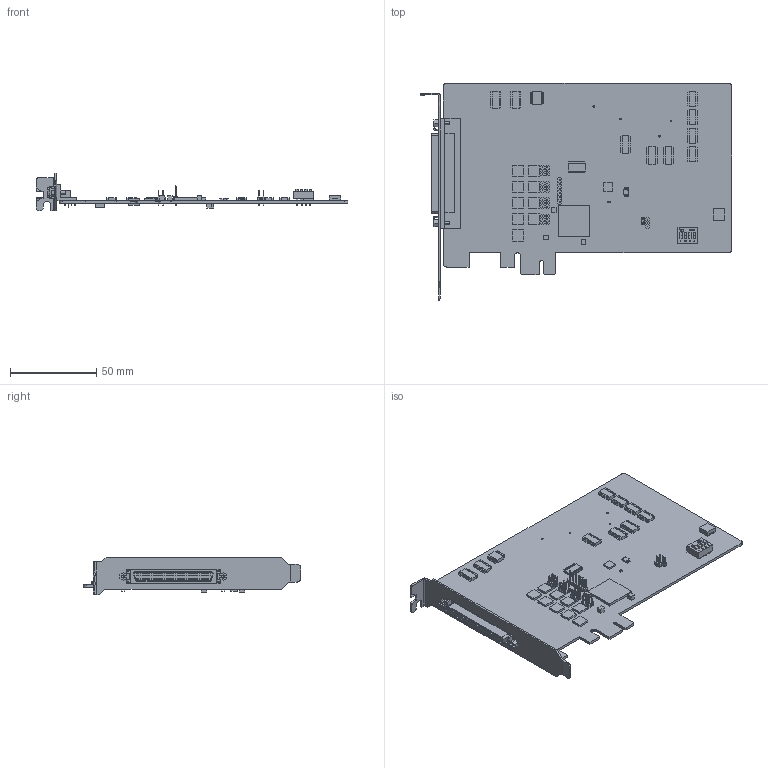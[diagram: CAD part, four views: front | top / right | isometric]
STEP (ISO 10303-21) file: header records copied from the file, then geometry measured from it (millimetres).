
FILE_DESCRIPTION (( 'STEP AP214' ), '1' );
FILE_NAME ('assy_PCIE-1816-AE.STEP', '2021-04-06T06:13:11', ( '' ), ( '' ), 'SwSTEP 2.0', 'SolidWorks 2020', '' );
FILE_SCHEMA (( 'AUTOMOTIVE_DESIGN' ));
Length unit declared in the file: millimetre
Products named in the file (1): assy_PCIE-1816-AE
Bounding box: 181.07 x 126.22 x 21.6 mm (x, y, z)
Volume: 36398.3 mm3; surface area: 46766.9 mm2
Topology: 1 solids, 1 shells, 3778 faces, 10209 edges, 6706 vertices
Faces by surface type: plane 3465, cylinder 280, bspline 29, cone 4
Entity records: 149199 total; most frequent: CARTESIAN_POINT 22675, ORIENTED_EDGE 20410, DIRECTION 18243, EDGE_CURVE 10205, VECTOR 9543, LINE 9543, VERTEX_POINT 6706, AXIS2_PLACEMENT_3D 4350
